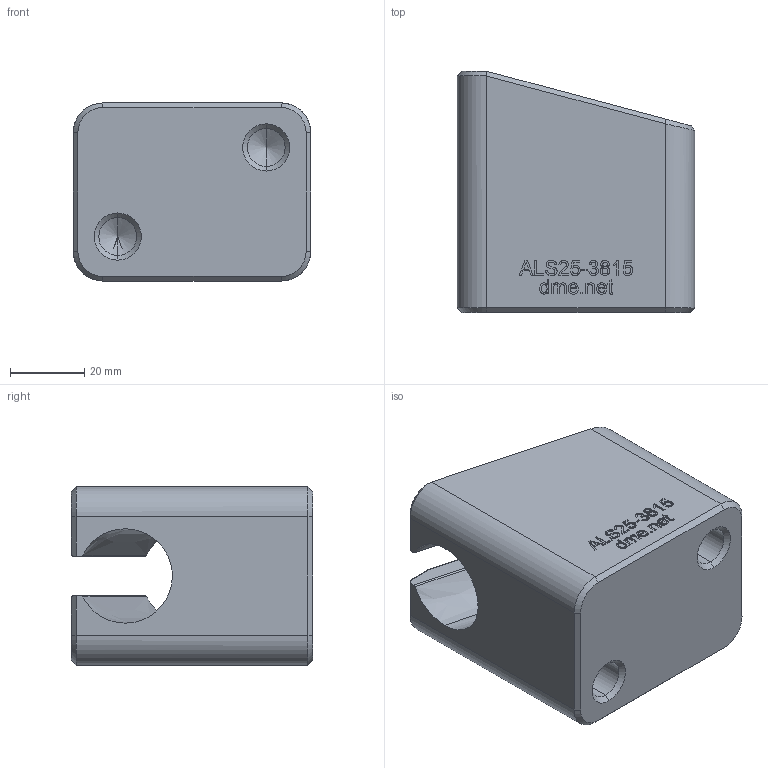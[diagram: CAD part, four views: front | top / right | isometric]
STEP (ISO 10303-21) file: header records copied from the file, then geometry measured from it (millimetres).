
FILE_DESCRIPTION (( 'STEP AP203' ), '1' );
FILE_NAME ('ALS25-3815.STEP', '2021-01-11T16:11:48', ( '' ), ( '' ), 'SwSTEP 2.0', 'SolidWorks 2020', '' );
FILE_SCHEMA (( 'CONFIG_CONTROL_DESIGN' ));
Length unit declared in the file: millimetre
Products named in the file (1): ALS25-3815
Bounding box: 64 x 65 x 48 mm (x, y, z)
Volume: 137413 mm3; surface area: 22577 mm2
Topology: 1 solids, 1 shells, 292 faces, 775 edges, 506 vertices
Faces by surface type: plane 139, bspline 125, cone 14, cylinder 14
Entity records: 15708 total; most frequent: CARTESIAN_POINT 9293, ORIENTED_EDGE 1542, DIRECTION 865, EDGE_CURVE 771, VERTEX_POINT 506, LINE 481, VECTOR 481, EDGE_LOOP 317
